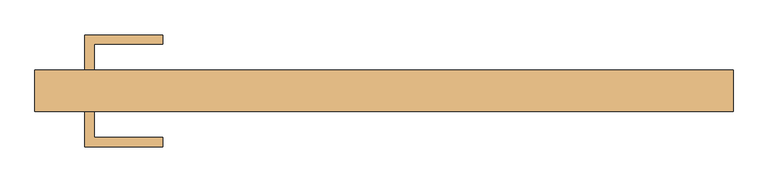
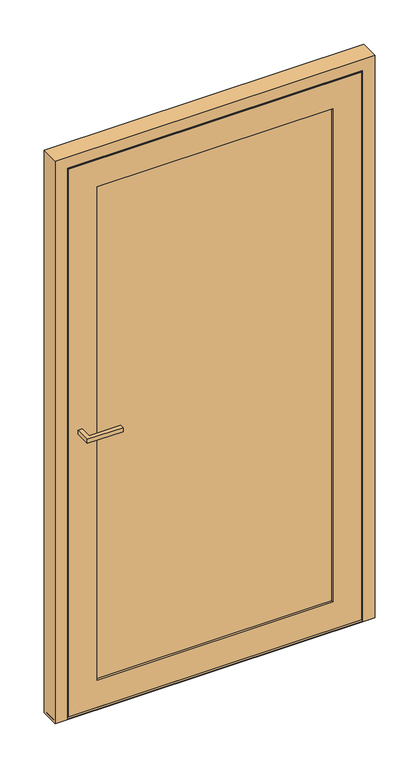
"""IFC4 building model written with IfcOpenShell, lengths in millimetres: door geometry, Reynaers_CS 77_Door_Miter_Outward Opening_Single Vent : Reynaers_CS 77_Door_Miter_Outward Opening_Single Vent."""

from ifc_helpers import new_model, si_unit, frame, origin, place, context, project, spatial, polyline, outline, extrude, faceted_brep, source, transform, mapped, element, save


def door_7bfdfdec(model_context):
    return source(origin(), model_context, "Body", "SolidModel", [
        extrude(outline(polyline([(-488.5, -80.0), (-473.5, -80.0), (-473.5, -122.5), (-361.0, -122.5), (-361.0, -137.5), (-488.5, -137.5), (-488.5, -80.0)])), frame((0.0, 0.0, 1062.5), z_axis=(0.0, 0.0, 1.0), x_axis=(1.0, 0.0, 0.0)), (0.0, 0.0, 1.0), 15.0),
        extrude(outline(polyline([(-488.5, -12.0), (-488.5, 45.5), (-361.0, 45.5), (-361.0, 30.5), (-473.5, 30.5), (-473.5, -12.0), (-488.5, -12.0)])), frame((0.0, 0.0, 1062.5), z_axis=(0.0, 0.0, 1.0), x_axis=(1.0, 0.0, 0.0)), (0.0, 0.0, 1.0), 15.0),
        extrude(outline(polyline([(439.0, -45.0), (439.0, -72.0), (-439.0, -72.0), (-439.0, -45.0), (439.0, -45.0)])), frame((0.0, 0.0, 90.0), z_axis=(0.0, 0.0, 1.0), x_axis=(1.0, 0.0, 0.0)), (0.0, 0.0, 1.0), 1899.0),
        faceted_brep([(445.0, -12.0, 1995.0), (445.0, -12.0, 87.5), (445.0, -72.0, 87.5), (445.0, -72.0, 1995.0), (-445.0, -72.0, 1995.0), (-445.0, -72.0, 87.5), (420.0, -72.0, 1970.0), (-420.0, -72.0, 1970.0), (-420.0, -72.0, 112.5), (420.0, -72.0, 112.5), (-445.0, -12.0, 87.5), (-496.0, -12.0, 2046.0), (496.0, -12.0, 2046.0), (496.0, -12.0, 36.5), (-496.0, -12.0, 36.5), (-445.0, -12.0, 1995.0), (496.0, -21.8, 2046.0), (496.0, -21.8, 36.5), (-496.0, -21.8, 36.5), (-507.0, -21.8, 2057.0), (507.0, -21.8, 2057.0), (507.0, -21.8, 25.5), (-507.0, -21.8, 25.5), (-496.0, -21.8, 2046.0), (-507.0, -76.2, 25.5), (-507.0, -76.2, 2057.0), (507.0, -76.2, 25.5), (507.0, -76.2, 2057.0), (-522.0, -76.2, 2072.0), (522.0, -76.2, 2072.0), (522.0, -76.2, 10.5), (-522.0, -76.2, 10.5), (522.0, -80.0, 2072.0), (522.0, -80.0, 10.5), (-522.0, -80.0, 10.5), (-522.0, -80.0, 2072.0), (-420.0, -80.0, 1970.0), (420.0, -80.0, 1970.0), (420.0, -80.0, 112.5), (-420.0, -80.0, 112.5)], [[[0, 1, 2, 3]], [[4, 3, 2, 5], [6, 7, 8, 9]], [[1, 10, 5, 2]], [[11, 12, 13, 14], [0, 15, 10, 1]], [[16, 17, 13, 12]], [[17, 18, 14, 13]], [[19, 20, 21, 22], [16, 23, 18, 17]], [[10, 15, 4, 5]], [[18, 23, 11, 14]], [[24, 25, 19, 22]], [[26, 24, 22, 21]], [[27, 26, 21, 20]], [[28, 29, 30, 31], [27, 25, 24, 26]], [[32, 33, 30, 29]], [[33, 34, 31, 30]], [[32, 35, 34, 33], [36, 37, 38, 39]], [[6, 9, 38, 37]], [[9, 8, 39, 38]], [[34, 35, 28, 31]], [[8, 7, 36, 39]], [[15, 0, 3, 4]], [[23, 16, 12, 11]], [[25, 27, 20, 19]], [[35, 32, 29, 28]], [[7, 6, 37, 36]]]),
        faceted_brep([(420.0, -12.0, 1970.0), (420.0, -12.0, 112.5), (420.0, -45.0, 112.5), (420.0, -45.0, 1970.0), (444.0, -45.0, 1994.0), (-444.0, -45.0, 1994.0), (-444.0, -45.0, 88.5), (444.0, -45.0, 88.5), (-420.0, -45.0, 1970.0), (-420.0, -45.0, 112.5), (-420.0, -12.0, 112.5), (-444.0, -12.0, 1994.0), (444.0, -12.0, 1994.0), (444.0, -12.0, 88.5), (-444.0, -12.0, 88.5), (-420.0, -12.0, 1970.0)], [[[0, 1, 2, 3]], [[4, 5, 6, 7], [8, 3, 2, 9]], [[1, 10, 9, 2]], [[11, 12, 13, 14], [0, 15, 10, 1]], [[4, 7, 13, 12]], [[7, 6, 14, 13]], [[10, 15, 8, 9]], [[6, 5, 11, 14]], [[15, 0, 3, 8]], [[5, 4, 12, 11]]]),
        faceted_brep([(-528.0, -70.2, 0.0), (-528.0, -80.0, 0.0), (-570.0, -80.0, 0.0), (-570.0, -12.0, 0.0), (-502.0, -12.0, 0.0), (-502.0, -15.8, 0.0), (-517.0, -15.8, 0.0), (-517.0, -70.2, 0.0), (-517.0, -70.2, 2067.0), (517.0, -70.2, 2067.0), (517.0, -70.2, 0.0), (528.0, -70.2, 0.0), (528.0, -70.2, 2078.0), (-528.0, -70.2, 2078.0), (-517.0, -15.8, 2067.0), (-502.0, -15.8, 2052.0), (502.0, -15.8, 2052.0), (502.0, -15.8, 0.0), (517.0, -15.8, 0.0), (517.0, -15.8, 2067.0), (-502.0, -12.0, 2052.0), (-570.0, -12.0, 2120.0), (570.0, -12.0, 2120.0), (570.0, -12.0, 0.0), (502.0, -12.0, 0.0), (502.0, -12.0, 2052.0), (-570.0, -80.0, 2120.0), (-528.0, -80.0, 2078.0), (528.0, -80.0, 2078.0), (528.0, -80.0, 0.0), (570.0, -80.0, 0.0), (570.0, -80.0, 2120.0)], [[[0, 1, 2, 3, 4, 5, 6, 7]], [[7, 8, 9, 10, 11, 12, 13, 0]], [[6, 14, 8, 7]], [[5, 15, 16, 17, 18, 19, 14, 6]], [[4, 20, 15, 5]], [[3, 21, 22, 23, 24, 25, 20, 4]], [[2, 26, 21, 3]], [[1, 27, 28, 29, 30, 31, 26, 2]], [[0, 13, 27, 1]], [[12, 11, 29, 28]], [[11, 10, 18, 17, 24, 23, 30, 29]], [[19, 18, 10, 9]], [[31, 30, 23, 22]], [[25, 24, 17, 16]], [[26, 31, 22, 21]], [[13, 12, 28, 27]], [[14, 19, 9, 8]], [[20, 25, 16, 15]]]),
        extrude(outline(polyline([(-12.0, 35.7), (-12.0, 21.7), (-23.8935884, 21.7), (-23.8935884, 17.8721712), (-32.4, 17.8721712), (-32.4, 24.7), (-21.0, 24.7), (-21.0, 35.7), (-12.0, 35.7)])), frame((-522.0, 0.0, 0.0), z_axis=(1.0, 0.0, 0.0), x_axis=(0.0, 1.0, 0.0)), (0.0, 0.0, 1.0), 1044.0),
        extrude(outline(polyline([(-80.0, 1.9998842), (-71.0, 2.4715542), (-71.0, 10.5), (-28.6049543, 10.5), (-23.087326, 18.0943638), (-12.0, 11.8965841), (-12.0, 1.0), (-80.0, 1.0), (-80.0, 1.9998842)])), frame((-570.0, 0.0, 0.0), z_axis=(1.0, 0.0, 0.0), x_axis=(0.0, 1.0, 0.0)), (0.0, 0.0, 1.0), 1140.0),
    ])


if __name__ == "__main__":
    model = new_model("IFC4")
    model_context = context("Model", 3, world=origin())
    ifc_project = project(units=[si_unit("LENGTHUNIT", "METRE", prefix="MILLI")], contexts=[model_context])
    site = spatial("IfcSite", under=ifc_project)
    building = spatial("IfcBuilding", under=site)
    placement = place(None, origin())
    door_shape = door_7bfdfdec(model_context)
    element("IfcDoor", 1, ObjectType="Reynaers_CS 77_Door_Miter_Outward Opening_Single Vent : Reynaers_CS 77_Door_Miter_Outward Opening_Single Vent", at=placement, inside=building, context=model_context, shape_type="MappedRepresentation", body=[
        mapped(door_shape, transform((0.0, 0.0, 0.0), x_axis=(1.0, 0.0, 0.0), y_axis=(0.0, 1.0, 0.0), z_axis=(0.0, 0.0, 1.0))),
    ])
    save(model, "model.ifc")
